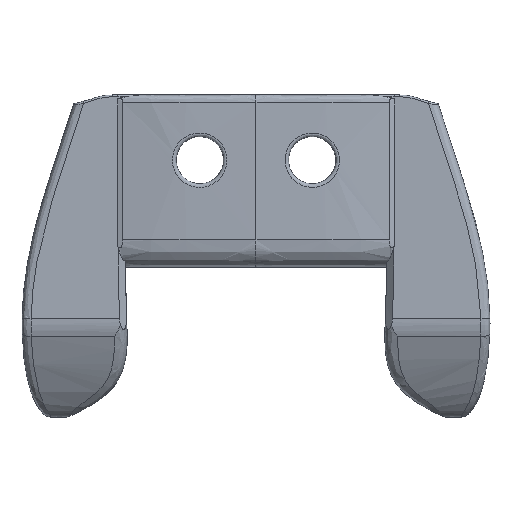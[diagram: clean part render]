
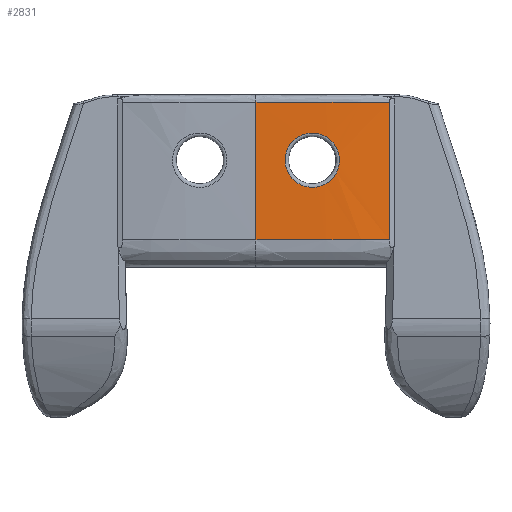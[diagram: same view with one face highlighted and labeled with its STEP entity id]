
A CAD part, front view. The second image highlights one B-rep face of the part: STEP entity #2831.
In plain terms, the highlighted free-form (B-spline) face has degree [3, 1] with [9, 2] control points.
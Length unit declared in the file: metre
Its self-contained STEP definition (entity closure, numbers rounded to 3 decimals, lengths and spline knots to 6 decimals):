
#64=B_SPLINE_SURFACE_WITH_KNOTS('',3,1,((#5700,#5701),(#5702,#5703),(#5704,
#5705),(#5706,#5707),(#5708,#5709),(#5710,#5711),(#5712,#5713),(#5714,#5715),
(#5716,#5717)),.SURF_OF_LINEAR_EXTRUSION.,.F.,.F.,.F.,(4,1,1,1,1,1,4),(2,
2),(0.593594,0.618995,0.644395,0.695196,
0.796797,0.898399,1.),(0.,1.),.UNSPECIFIED.);
#266=B_SPLINE_CURVE_WITH_KNOTS('',3,(#5718,#5719,#5720,#5721,#5722,#5723,
#5724,#5725,#5726,#5727,#5728,#5729,#5730,#5731,#5732,#5733,#5734,#5735,
#5736,#5737,#5738,#5739,#5740,#5741,#5742,#5743,#5744,#5745,#5746,#5747,
#5748,#5749,#5750,#5751,#5752),.UNSPECIFIED.,.T.,.F.,(1,1,1,1,1,1,1,1,1,
1,1,1,1,1,1,1,1,1,1,1,1,1,1,1,1,1,1,1,1,1,1,1,1,1,1,1,1,1,1),(-0.097039,
-0.065789,-0.032895,0.,0.029688,0.059375,0.090547,
0.121719,0.152965,0.184211,0.215461,0.246711,0.277961,
0.309211,0.340461,0.371711,0.402961,
0.434211,0.465461,0.496711,0.527961,
0.559211,0.590461,0.621711,0.652961,0.684211,
0.715461,0.746711,0.777961,0.809211,
0.840461,0.871711,0.902961,0.934211,
0.967105,1.,1.029688,1.059375,1.090547),.UNSPECIFIED.);
#267=B_SPLINE_CURVE_WITH_KNOTS('',3,(#5757,#5758,#5759,#5760,#5761,#5762,
#5763,#5764,#5765),.UNSPECIFIED.,.F.,.F.,(4,1,1,1,1,1,4),(0.,0.0625,0.125,
0.25,0.5,0.75,1.),.UNSPECIFIED.);
#268=B_SPLINE_CURVE_WITH_KNOTS('',3,(#5766,#5767,#5768,#5769,#5770,#5771,
#5772,#5773,#5774),.UNSPECIFIED.,.F.,.F.,(4,1,1,1,1,1,4),(0.,0.25,0.5,0.75,
0.875,0.9375,1.),.UNSPECIFIED.);
#604=ORIENTED_EDGE('',*,*,#1428,.T.);
#605=ORIENTED_EDGE('',*,*,#1429,.T.);
#606=ORIENTED_EDGE('',*,*,#1430,.T.);
#607=ORIENTED_EDGE('',*,*,#1378,.T.);
#608=ORIENTED_EDGE('',*,*,#1431,.T.);
#1378=EDGE_CURVE('',#1789,#1790,#2032,.T.);
#1428=EDGE_CURVE('',#1831,#1831,#266,.T.);
#1429=EDGE_CURVE('',#1832,#1833,#2043,.T.);
#1430=EDGE_CURVE('',#1833,#1789,#267,.T.);
#1431=EDGE_CURVE('',#1790,#1832,#268,.T.);
#1789=VERTEX_POINT('',#4317);
#1790=VERTEX_POINT('',#4318);
#1831=VERTEX_POINT('',#5753);
#1832=VERTEX_POINT('',#5755);
#1833=VERTEX_POINT('',#5756);
#2032=LINE('',#4316,#2181);
#2043=LINE('',#5754,#2192);
#2181=VECTOR('',#3320,1.);
#2192=VECTOR('',#3341,1.);
#2291=EDGE_LOOP('',(#604));
#2292=EDGE_LOOP('',(#605,#606,#607,#608));
#2531=FACE_BOUND('',#2291,.T.);
#2532=FACE_BOUND('',#2292,.T.);
#2831=ADVANCED_FACE('',(#2531,#2532),#64,.T.);
#3320=DIRECTION('',(0.,0.,-1.));
#3341=DIRECTION('',(0.,0.,1.));
#4316=CARTESIAN_POINT('',(0.,-0.033,0.095));
#4317=CARTESIAN_POINT('',(0.,-0.033,0.091));
#4318=CARTESIAN_POINT('',(0.,-0.033,0.015));
#5700=CARTESIAN_POINT('',(0.073533,-0.028871,0.091));
#5701=CARTESIAN_POINT('',(0.073533,-0.028871,0.015));
#5702=CARTESIAN_POINT('',(0.072197,-0.02911,0.091));
#5703=CARTESIAN_POINT('',(0.072197,-0.02911,0.015));
#5704=CARTESIAN_POINT('',(0.06952,-0.029585,0.091));
#5705=CARTESIAN_POINT('',(0.06952,-0.029585,0.015));
#5706=CARTESIAN_POINT('',(0.063996,-0.030382,0.091));
#5707=CARTESIAN_POINT('',(0.063996,-0.030382,0.015));
#5708=CARTESIAN_POINT('',(0.053981,-0.031474,0.091));
#5709=CARTESIAN_POINT('',(0.053981,-0.031474,0.015));
#5710=CARTESIAN_POINT('',(0.038787,-0.0323,0.091));
#5711=CARTESIAN_POINT('',(0.038787,-0.0323,0.015));
#5712=CARTESIAN_POINT('',(0.019622,-0.032662,0.091));
#5713=CARTESIAN_POINT('',(0.019622,-0.032662,0.015));
#5714=CARTESIAN_POINT('',(0.006539,-0.032839,0.091));
#5715=CARTESIAN_POINT('',(0.006539,-0.032839,0.015));
#5716=CARTESIAN_POINT('',(0.,-0.033,0.091));
#5717=CARTESIAN_POINT('',(0.,-0.033,0.015));
#5718=CARTESIAN_POINT('',(0.027896,-0.032495,0.073782));
#5719=CARTESIAN_POINT('',(0.030896,-0.032428,0.074094));
#5720=CARTESIAN_POINT('',(0.033812,-0.032351,0.073839));
#5721=CARTESIAN_POINT('',(0.036557,-0.032269,0.073055));
#5722=CARTESIAN_POINT('',(0.039179,-0.032177,0.071742));
#5723=CARTESIAN_POINT('',(0.041493,-0.032085,0.069931));
#5724=CARTESIAN_POINT('',(0.043453,-0.031998,0.067677));
#5725=CARTESIAN_POINT('',(0.044896,-0.031927,0.065123));
#5726=CARTESIAN_POINT('',(0.045843,-0.031878,0.062296));
#5727=CARTESIAN_POINT('',(0.046196,-0.031859,0.059378));
#5728=CARTESIAN_POINT('',(0.045986,-0.031871,0.056417));
#5729=CARTESIAN_POINT('',(0.045187,-0.031913,0.053576));
#5730=CARTESIAN_POINT('',(0.043856,-0.031979,0.050923));
#5731=CARTESIAN_POINT('',(0.042024,-0.032062,0.048598));
#5732=CARTESIAN_POINT('',(0.03977,-0.032155,0.046651));
#5733=CARTESIAN_POINT('',(0.03719,-0.032248,0.045203));
#5734=CARTESIAN_POINT('',(0.034357,-0.032336,0.044263));
#5735=CARTESIAN_POINT('',(0.031424,-0.032415,0.04391));
#5736=CARTESIAN_POINT('',(0.028449,-0.032484,0.044122));
#5737=CARTESIAN_POINT('',(0.025605,-0.032541,0.044917));
#5738=CARTESIAN_POINT('',(0.022944,-0.03259,0.046248));
#5739=CARTESIAN_POINT('',(0.020621,-0.032629,0.048071));
#5740=CARTESIAN_POINT('',(0.018675,-0.03266,0.050318));
#5741=CARTESIAN_POINT('',(0.017228,-0.032683,0.052891));
#5742=CARTESIAN_POINT('',(0.016292,-0.032698,0.055712));
#5743=CARTESIAN_POINT('',(0.015941,-0.032703,0.058637));
#5744=CARTESIAN_POINT('',(0.016156,-0.0327,0.061604));
#5745=CARTESIAN_POINT('',(0.01695,-0.032687,0.064435));
#5746=CARTESIAN_POINT('',(0.018284,-0.032666,0.067098));
#5747=CARTESIAN_POINT('',(0.0201,-0.032637,0.069407));
#5748=CARTESIAN_POINT('',(0.022353,-0.0326,0.071358));
#5749=CARTESIAN_POINT('',(0.024964,-0.032553,0.072824));
#5750=CARTESIAN_POINT('',(0.027896,-0.032495,0.073782));
#5751=CARTESIAN_POINT('',(0.030896,-0.032428,0.074094));
#5752=CARTESIAN_POINT('',(0.033812,-0.032351,0.073839));
#5753=CARTESIAN_POINT('',(0.031,-0.032423,0.074));
#5754=CARTESIAN_POINT('',(0.073533,-0.028871,0.0475));
#5755=CARTESIAN_POINT('',(0.073533,-0.028871,0.015));
#5756=CARTESIAN_POINT('',(0.073533,-0.028871,0.091));
#5757=CARTESIAN_POINT('',(0.073533,-0.028871,0.091));
#5758=CARTESIAN_POINT('',(0.072197,-0.02911,0.091));
#5759=CARTESIAN_POINT('',(0.06952,-0.029585,0.091));
#5760=CARTESIAN_POINT('',(0.063996,-0.030382,0.091));
#5761=CARTESIAN_POINT('',(0.053981,-0.031474,0.091));
#5762=CARTESIAN_POINT('',(0.038787,-0.0323,0.091));
#5763=CARTESIAN_POINT('',(0.019622,-0.032662,0.091));
#5764=CARTESIAN_POINT('',(0.006539,-0.032839,0.091));
#5765=CARTESIAN_POINT('',(0.,-0.033,0.091));
#5766=CARTESIAN_POINT('',(0.,-0.033,0.015));
#5767=CARTESIAN_POINT('',(0.006539,-0.032839,0.015));
#5768=CARTESIAN_POINT('',(0.019622,-0.032662,0.015));
#5769=CARTESIAN_POINT('',(0.038787,-0.0323,0.015));
#5770=CARTESIAN_POINT('',(0.053981,-0.031474,0.015));
#5771=CARTESIAN_POINT('',(0.063996,-0.030382,0.015));
#5772=CARTESIAN_POINT('',(0.06952,-0.029585,0.015));
#5773=CARTESIAN_POINT('',(0.072197,-0.02911,0.015));
#5774=CARTESIAN_POINT('',(0.073533,-0.028871,0.015));
